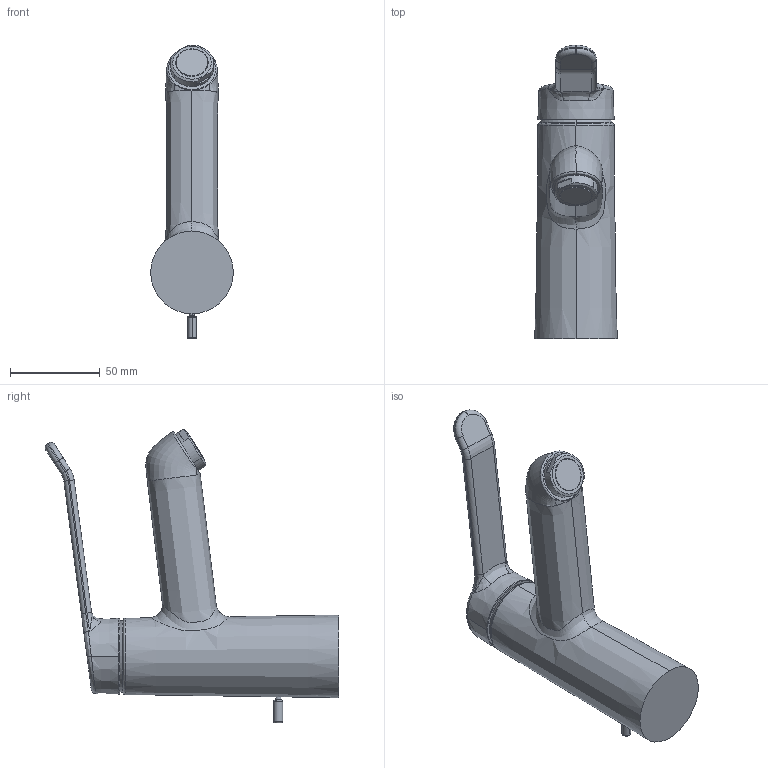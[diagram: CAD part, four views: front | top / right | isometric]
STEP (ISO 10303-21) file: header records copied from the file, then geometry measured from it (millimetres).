
FILE_DESCRIPTION((''),'2;1');
FILE_NAME('12518041_051','2020-10-20T10:13:25',('SN986'),(''),'CREO PARAMETRIC BY PTC INC, 2018500','CREO PARAMETRIC BY PTC INC, 2018500','');
FILE_SCHEMA(('CONFIG_CONTROL_DESIGN'));
Length unit declared in the file: millimetre
Products named in the file (1): 12518041_051
Bounding box: 46 x 163.4 x 163.54 mm (x, y, z)
Volume: 297610.1 mm3; surface area: 37476.4 mm2
Topology: 1 solids, 1 shells, 98 faces, 222 edges, 130 vertices
Faces by surface type: cylinder 24, torus 24, bspline 22, plane 18, cone 6, sphere 2, extrusion 2
Entity records: 6619 total; most frequent: CARTESIAN_POINT 4513, ORIENTED_EDGE 444, DIRECTION 419, EDGE_CURVE 222, AXIS2_PLACEMENT_3D 180, VERTEX_POINT 130, CIRCLE 106, EDGE_LOOP 102
